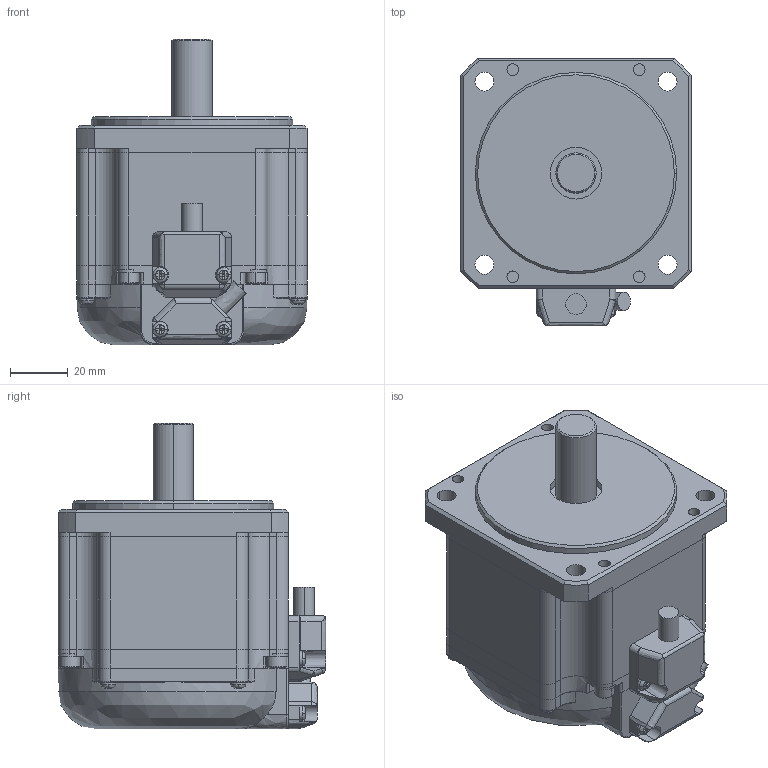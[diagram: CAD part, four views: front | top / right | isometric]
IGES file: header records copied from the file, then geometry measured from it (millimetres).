
Start section: Elysium IGES Interface
Global section: file name: 79H\\nas63\design\04MC研\saka\3DCAD\TBL-i2カタログまとめ\IGSデータ\TS4612_BK無.igs; native system: Creo Elements/Direct Modeling 17.0F  20-Aug-2012; preprocessor: Creo Element/Direct IGES_3D V2.2; author: Unknown; organization: Unknown; date: 20161222.163309; units: millimetre
Bounding box: 80 x 93 x 106.3 mm (x, y, z)
Volume: 442180.5 mm3; surface area: 39104.7 mm2
Topology: 1 solids, 1 shells, 667 faces, 1579 edges, 918 vertices
Faces by surface type: bspline 667
